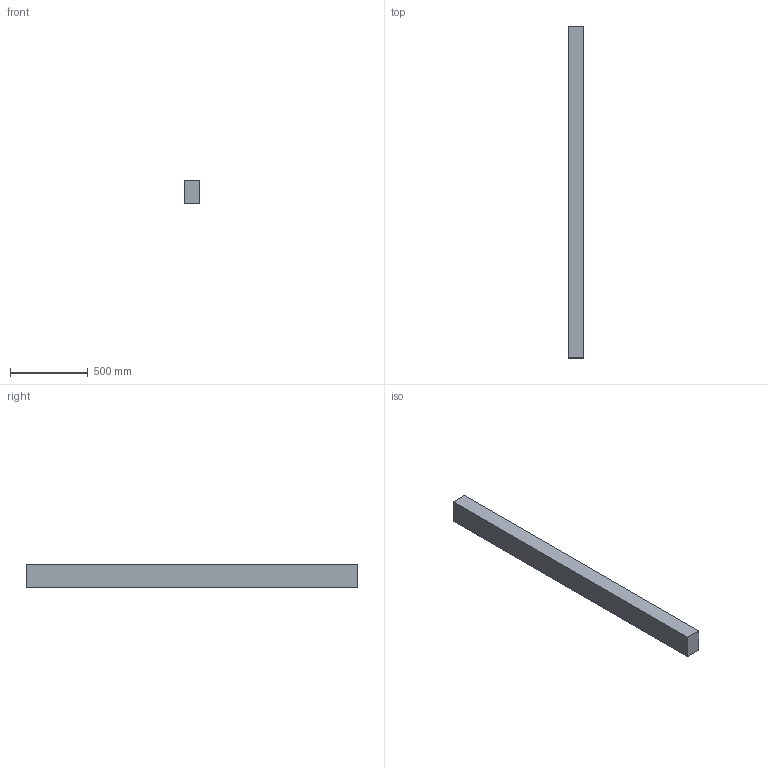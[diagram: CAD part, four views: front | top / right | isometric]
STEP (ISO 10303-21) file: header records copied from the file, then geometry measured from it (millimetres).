
FILE_DESCRIPTION(/* description */ (''),/* implementation_level */ '2;1');
FILE_NAME(/* name */ '4x6x84',/* time_stamp */ '2024-09-20T11:45:45-05:00',/* author */ (''),/* organization */ (''),/* preprocessor_version */ 'ST-DEVELOPER v19.2',/* originating_system */ 'Rhino 8.5',/* authorisation */ '');
FILE_SCHEMA (('CONFIG_CONTROL_DESIGN'));
Length unit declared in the file: inch
Products named in the file (1): Document
Bounding box: 101.6 x 2133.6 x 152.4 mm (x, y, z)
Volume: 33036321 mm3; surface area: 1114836.5 mm2
Topology: 1 solids, 1 shells, 6 faces, 12 edges, 8 vertices
Faces by surface type: plane 6
Entity records: 226 total; most frequent: CARTESIAN_POINT 40, ORIENTED_EDGE 24, EDGE_CURVE 12, B_SPLINE_CURVE_WITH_KNOTS 12, DIRECTION 10, VERTEX_POINT 8, AXIS2_PLACEMENT_3D 8, ORGANIZATION 7
